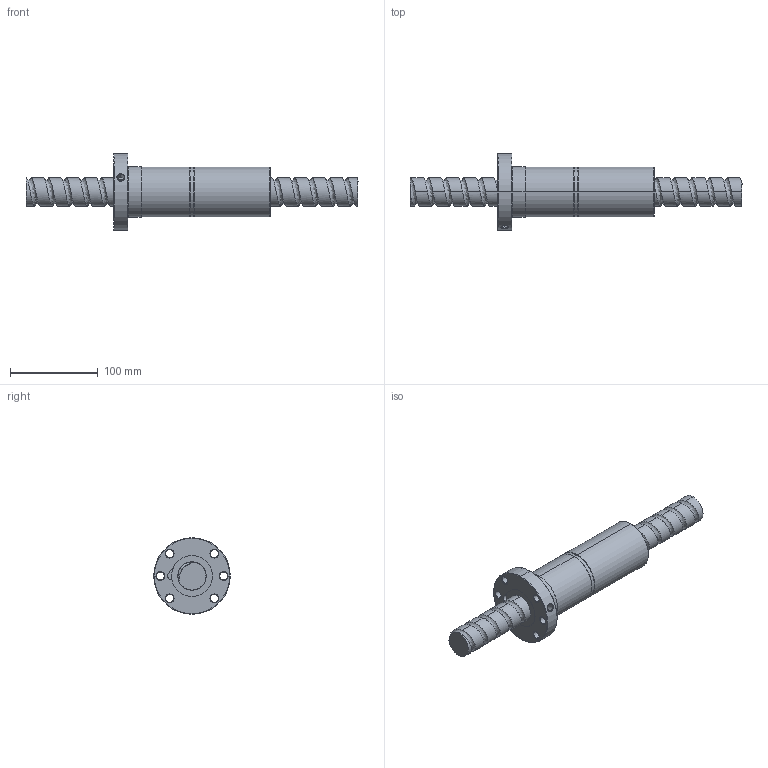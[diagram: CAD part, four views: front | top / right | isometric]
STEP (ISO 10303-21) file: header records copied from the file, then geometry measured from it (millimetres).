
FILE_DESCRIPTION (( 'STEP AP214' ), '1' );
FILE_NAME ('FDDC03220T3-F-A.STEP', '2010-07-06T05:16:47', ( 'XPAUTO' ), ( 'XPAUTO' ), 'SwSTEP 2.0', 'SolidWorks 2007', '' );
FILE_SCHEMA (( 'AUTOMOTIVE_DESIGN' ));
Length unit declared in the file: millimetre
Products named in the file (3): FDDC03220T3-F-A.sldasm-Part-1_預設; FDDC03220T3-F-A; FDDC03220T3-F-A.sldasm-Part-2_預設
Assembly tree (2 placements, depth 2):
  FDDC03220T3-F-A
    FDDC03220T3-F-A.sldasm-Part-1_預設
    FDDC03220T3-F-A.sldasm-Part-2_預設
Bounding box: 378 x 87 x 87 mm (x, y, z)
Volume: 636512.3 mm3; surface area: 106975.3 mm2
Topology: 2 solids, 2 shells, 137 faces, 338 edges, 211 vertices
Faces by surface type: cylinder 81, cone 24, plane 17, torus 10, bspline 5
Entity records: 26274 total; most frequent: CARTESIAN_POINT 23023, ORIENTED_EDGE 676, DIRECTION 642, EDGE_CURVE 338, AXIS2_PLACEMENT_3D 265, VERTEX_POINT 211, EDGE_LOOP 159, FACE_OUTER_BOUND 137
